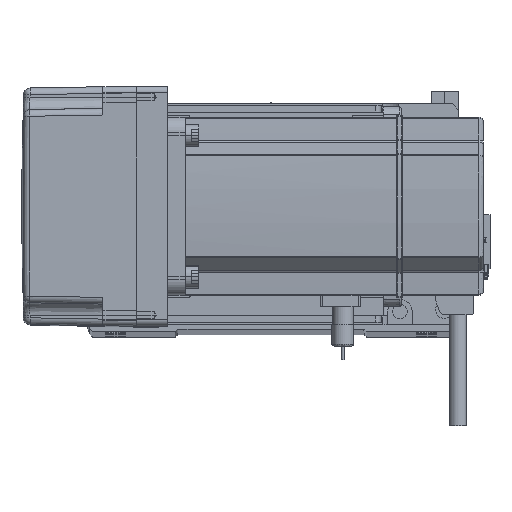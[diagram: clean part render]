
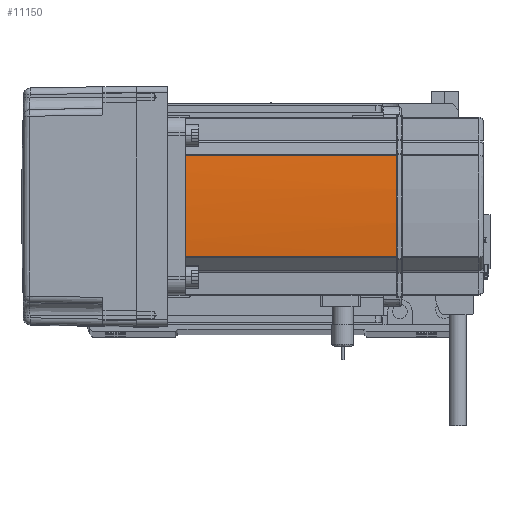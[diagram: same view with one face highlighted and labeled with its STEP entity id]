
A CAD part, top view. The second image highlights one B-rep face of the part: STEP entity #11150.
In plain terms, the highlighted cylindrical face has radius 270 mm (diameter 540 mm), a partial arc.
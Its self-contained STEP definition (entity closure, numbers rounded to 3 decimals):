
#564 = ORIENTED_EDGE ( 'NONE', *, *, #55507, .T. ) ;
#1568 = DIRECTION ( 'NONE',  ( 0., 0., -1. ) ) ;
#4060 = CIRCLE ( 'NONE', #59559, 270. ) ;
#5157 = CARTESIAN_POINT ( 'NONE',  ( 40., 0.127, 134. ) ) ;
#6475 = AXIS2_PLACEMENT_3D ( 'NONE', #57131, #42968, #56924 ) ;
#7033 = VECTOR ( 'NONE', #56262, 1000. ) ;
#7281 = CARTESIAN_POINT ( 'NONE',  ( 39.042, -22.724, 39. ) ) ;
#7826 = EDGE_CURVE ( 'NONE', #30039, #12491, #4060, .T. ) ;
#8148 = DIRECTION ( 'NONE',  ( 0., 0., -1. ) ) ;
#10251 = CARTESIAN_POINT ( 'NONE',  ( 39.042, -22.724, 134. ) ) ;
#10310 = CARTESIAN_POINT ( 'NONE',  ( 39.042, -22.724, 58. ) ) ;
#11150 = ADVANCED_FACE ( 'NONE', ( #32353 ), #12163, .T. ) ;
#12163 = CYLINDRICAL_SURFACE ( 'NONE', #57331, 270. ) ;
#12491 = VERTEX_POINT ( 'NONE', #7281 ) ;
#13402 = CARTESIAN_POINT ( 'NONE',  ( -230., 0., 58. ) ) ;
#13702 = B_SPLINE_CURVE_WITH_KNOTS ( 'NONE', 3,
 ( #42229, #50618, #32985, #5157 ),
 .UNSPECIFIED., .F., .F.,
 ( 4, 4 ),
 ( 0., 1. ),
 .UNSPECIFIED. ) ;
#13940 = ORIENTED_EDGE ( 'NONE', *, *, #24227, .T. ) ;
#14415 = VERTEX_POINT ( 'NONE', #59466 ) ;
#20652 = LINE ( 'NONE', #41803, #34360 ) ;
#23664 = AXIS2_PLACEMENT_3D ( 'NONE', #42416, #28952, #55962 ) ;
#23793 = VERTEX_POINT ( 'NONE', #39155 ) ;
#24227 = EDGE_CURVE ( 'NONE', #57883, #12491, #37394, .T. ) ;
#24474 = CIRCLE ( 'NONE', #6475, 270. ) ;
#26854 = ORIENTED_EDGE ( 'NONE', *, *, #41995, .F. ) ;
#28952 = DIRECTION ( 'NONE',  ( 0., 0., -1. ) ) ;
#29413 = DIRECTION ( 'NONE',  ( -1., 0., 0. ) ) ;
#30039 = VERTEX_POINT ( 'NONE', #39582 ) ;
#32353 = FACE_OUTER_BOUND ( 'NONE', #56492, .T. ) ;
#32560 = ORIENTED_EDGE ( 'NONE', *, *, #7826, .F. ) ;
#32697 = CARTESIAN_POINT ( 'NONE',  ( 39.042, 22.724, 134. ) ) ;
#32985 = CARTESIAN_POINT ( 'NONE',  ( 40., 0.042, 134. ) ) ;
#33173 = ORIENTED_EDGE ( 'NONE', *, *, #46533, .T. ) ;
#34360 = VECTOR ( 'NONE', #42393, 1000. ) ;
#37394 = LINE ( 'NONE', #10310, #7033 ) ;
#38061 = ORIENTED_EDGE ( 'NONE', *, *, #53573, .T. ) ;
#39037 = CARTESIAN_POINT ( 'NONE',  ( -230., 0., 39. ) ) ;
#39155 = CARTESIAN_POINT ( 'NONE',  ( 40., 0.127, 134. ) ) ;
#39582 = CARTESIAN_POINT ( 'NONE',  ( 39.042, 22.724, 39. ) ) ;
#41803 = CARTESIAN_POINT ( 'NONE',  ( 39.042, 22.724, 58. ) ) ;
#41995 = EDGE_CURVE ( 'NONE', #14415, #23793, #13702, .T. ) ;
#42229 = CARTESIAN_POINT ( 'NONE',  ( 40., -0.127, 134. ) ) ;
#42393 = DIRECTION ( 'NONE',  ( 0., 0., 1. ) ) ;
#42416 = CARTESIAN_POINT ( 'NONE',  ( -230., 0., 134. ) ) ;
#42968 = DIRECTION ( 'NONE',  ( 0., 0., -1. ) ) ;
#43583 = VERTEX_POINT ( 'NONE', #32697 ) ;
#46533 = EDGE_CURVE ( 'NONE', #43583, #23793, #54404, .T. ) ;
#50618 = CARTESIAN_POINT ( 'NONE',  ( 40., -0.042, 134. ) ) ;
#53573 = EDGE_CURVE ( 'NONE', #14415, #57883, #24474, .T. ) ;
#54404 = CIRCLE ( 'NONE', #23664, 270. ) ;
#55507 = EDGE_CURVE ( 'NONE', #30039, #43583, #20652, .T. ) ;
#55962 = DIRECTION ( 'NONE',  ( -1., 0., 0. ) ) ;
#56262 = DIRECTION ( 'NONE',  ( 0., 0., -1. ) ) ;
#56492 = EDGE_LOOP ( 'NONE', ( #13940, #32560, #564, #33173, #26854, #38061 ) ) ;
#56924 = DIRECTION ( 'NONE',  ( -1., 0., 0. ) ) ;
#57131 = CARTESIAN_POINT ( 'NONE',  ( -230., 0., 134. ) ) ;
#57331 = AXIS2_PLACEMENT_3D ( 'NONE', #13402, #8148, #58578 ) ;
#57883 = VERTEX_POINT ( 'NONE', #10251 ) ;
#58578 = DIRECTION ( 'NONE',  ( -1., 0., 0. ) ) ;
#59466 = CARTESIAN_POINT ( 'NONE',  ( 40., -0.127, 134. ) ) ;
#59559 = AXIS2_PLACEMENT_3D ( 'NONE', #39037, #1568, #29413 ) ;
